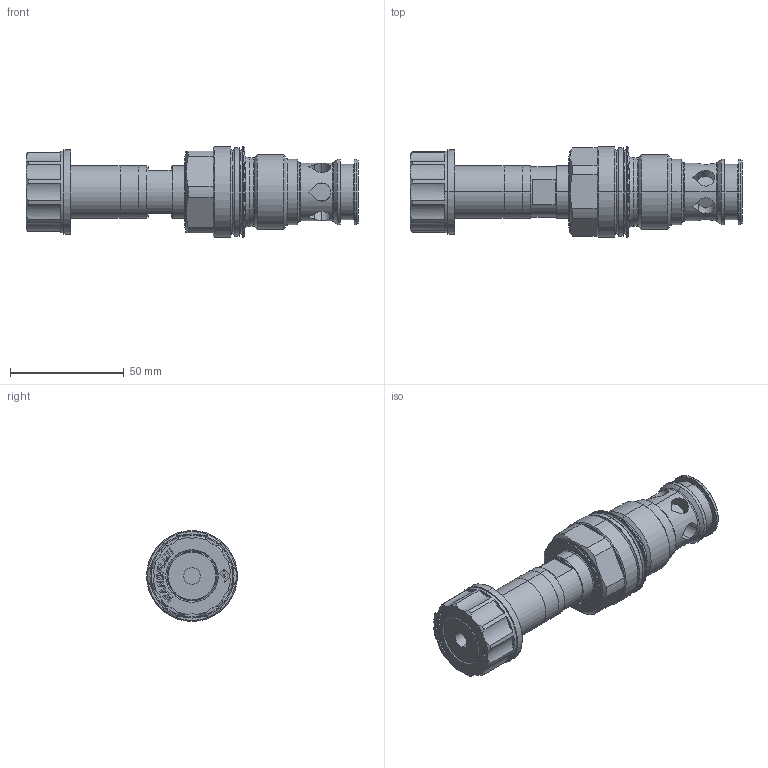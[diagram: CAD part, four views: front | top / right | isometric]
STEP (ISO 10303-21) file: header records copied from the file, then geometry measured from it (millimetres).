
FILE_DESCRIPTION (( 'STEP AP214' ), '1' );
FILE_NAME ('DNPPM33.STEP', '2017-04-07T12:37:46', ( '' ), ( '' ), 'SwSTEP 2.0', 'SolidWorks 2016', '' );
FILE_SCHEMA (( 'AUTOMOTIVE_DESIGN' ));
Length unit declared in the file: millimetre
Products named in the file (1): DNPPM33
Bounding box: 146 x 40 x 40 mm (x, y, z)
Volume: 97793.3 mm3; surface area: 23695.7 mm2
Topology: 2 solids, 2 shells, 360 faces, 889 edges, 558 vertices
Faces by surface type: plane 175, cylinder 87, cone 52, torus 30, bspline 16
Entity records: 15751 total; most frequent: CARTESIAN_POINT 3242, ORIENTED_EDGE 1778, DIRECTION 1773, EDGE_CURVE 889, AXIS2_PLACEMENT_3D 645, VERTEX_POINT 558, VECTOR 483, LINE 483
